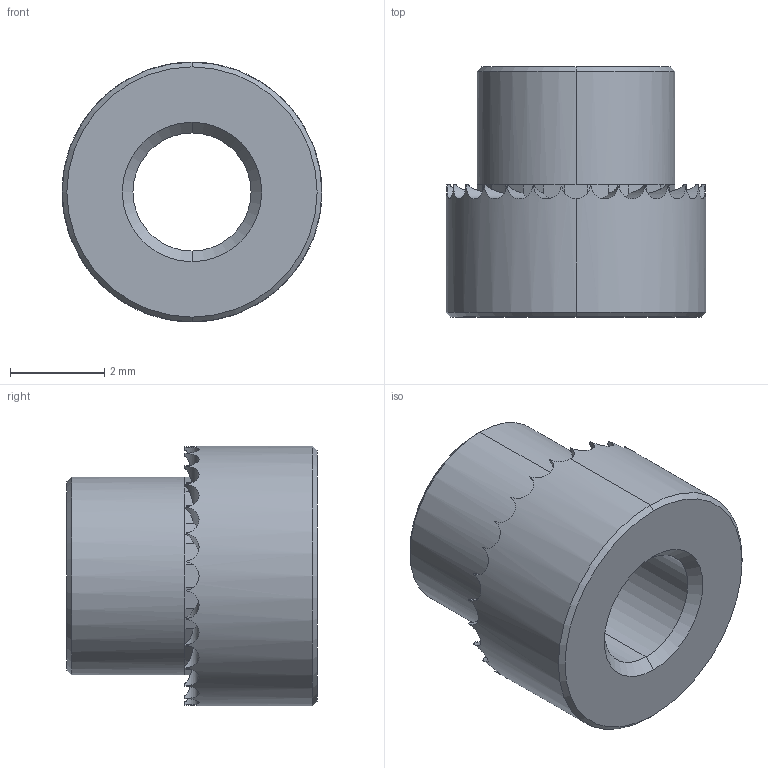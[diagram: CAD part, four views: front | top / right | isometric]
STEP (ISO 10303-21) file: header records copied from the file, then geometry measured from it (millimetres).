
FILE_DESCRIPTION (( 'STEP AP203' ), '1' );
FILE_NAME ('P0829.025-14G-ZP.step', '2019-03-21T22:11:41', ( '' ), ( '' ), 'SwSTEP 2.0', 'SolidWorks 2017', '' );
FILE_SCHEMA (( 'CONFIG_CONTROL_DESIGN' ));
Length unit declared in the file: millimetre
Products named in the file (1): P0829.025-14G-ZP
Bounding box: 5.5 x 5.3 x 5.5 mm (x, y, z)
Volume: 71.9 mm3; surface area: 159.4 mm2
Topology: 1 solids, 1 shells, 128 faces, 312 edges, 186 vertices
Faces by surface type: plane 86, cylinder 34, cone 8
Entity records: 3963 total; most frequent: CARTESIAN_POINT 965, ORIENTED_EDGE 624, DIRECTION 612, EDGE_CURVE 312, AXIS2_PLACEMENT_3D 229, VERTEX_POINT 186, LINE 154, VECTOR 154
